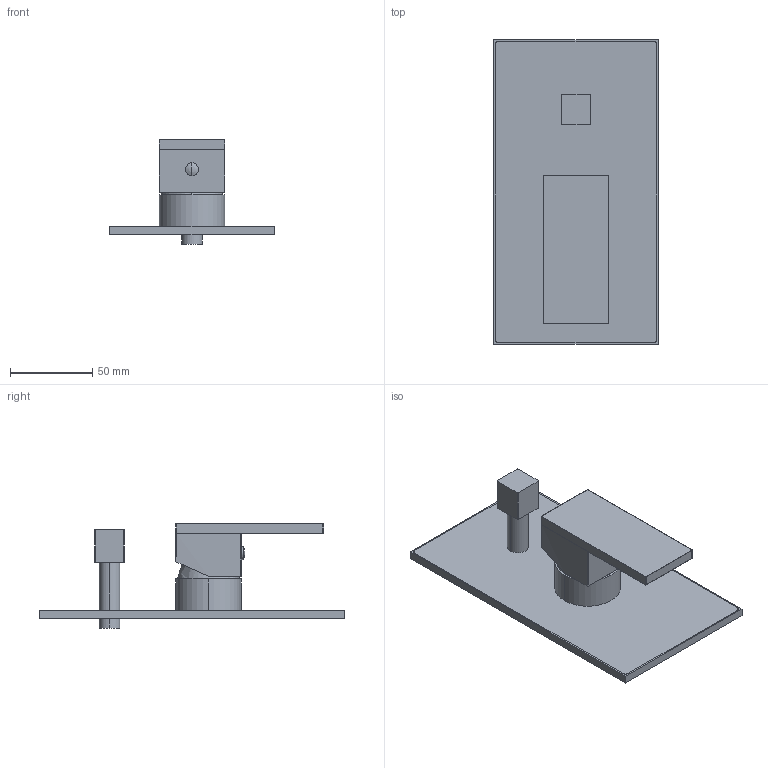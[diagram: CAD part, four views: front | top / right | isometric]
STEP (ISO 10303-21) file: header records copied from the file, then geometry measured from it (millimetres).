
FILE_DESCRIPTION(('FreeCAD Model'),'2;1');
FILE_NAME('Open CASCADE Shape Model','2024-08-08T17:31:18',('Author'),( ''),'Open CASCADE STEP processor 7.6','FreeCAD','Unknown');
FILE_SCHEMA(('AUTOMOTIVE_DESIGN { 1 0 10303 214 1 1 1 1 }'));
Length unit declared in the file: millimetre
Products named in the file (10): TopLevelAssembly; Połączona geometria bryłowa002; Połączona geometria bryłowa; Połączona geometria bryłowa001; Połączona geometria bryłowa003; Wyciąganie001; Wyciąganie003; Wyciąganie004; Połączona geometria bryłowa005; Wyciąganie008
Assembly tree (9 placements, depth 3):
  TopLevelAssembly
    Połączona geometria bryłowa002
      Połączona geometria bryłowa
      Połączona geometria bryłowa001
    Połączona geometria bryłowa003
    Wyciąganie001
    Wyciąganie003
    Wyciąganie004
    Połączona geometria bryłowa005
    Wyciąganie008
Bounding box: 100 x 185 x 63.6 mm (x, y, z)
Volume: 313281 mm3; surface area: 112397 mm2
Topology: 8 solids, 8 shells, 72 faces, 157 edges, 100 vertices
Faces by surface type: plane 44, cylinder 24, bspline 4
Entity records: 2221 total; most frequent: CARTESIAN_POINT 391, DIRECTION 361, ORIENTED_EDGE 306, EDGE_CURVE 153, AXIS2_PLACEMENT_3D 130, LINE 101, VECTOR 101, VERTEX_POINT 100
